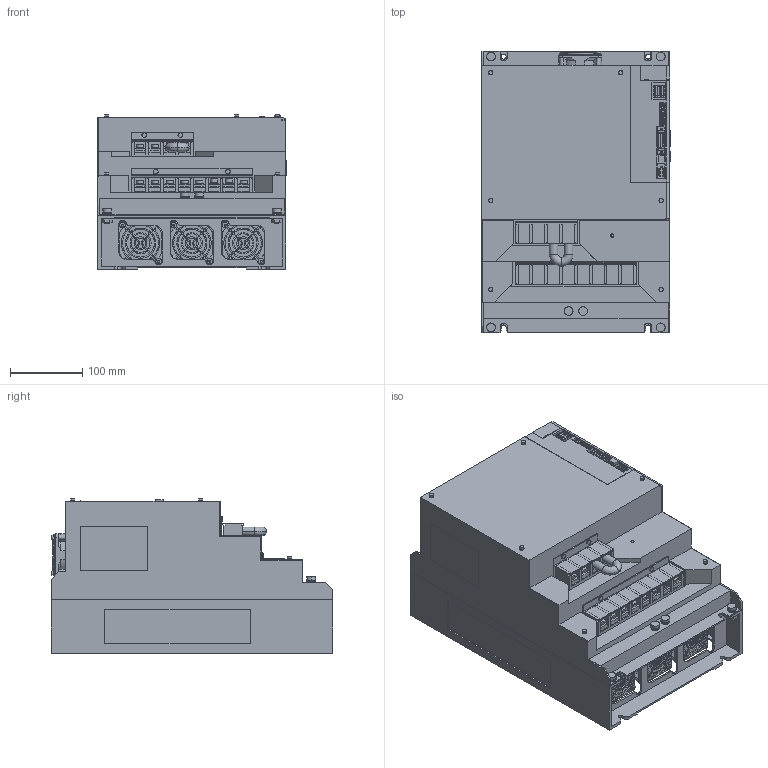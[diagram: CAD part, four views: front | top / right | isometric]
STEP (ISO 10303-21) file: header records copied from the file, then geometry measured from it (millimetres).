
FILE_DESCRIPTION (( 'STEP AP203' ), '1' );
FILE_NAME ('sgd7s_780a10a.STEP', '2015-09-18T08:34:57', ( '匠エンジニアリング山之内' ), ( 'TAKUMI-Engniaring' ), 'SwSTEP 2.0', 'SolidWorks 2006303', '' );
FILE_SCHEMA (( 'CONFIG_CONTROL_DESIGN' ));
Products named in the file (8): sgd7s_780a10a_base; sgd7s_780a10a_cover4; sgd7s_780a10a_terminal; sgd7s_780a10a; sgd7s_780a10a_cover; sgd7s_780a10a_cover2; sgd7s_780a10a_connector; sgd7s_780a10a_cover3
Assembly tree (8 placements, depth 2):
  sgd7s_780a10a
    sgd7s_780a10a_cover
    sgd7s_780a10a_cover2  x2
    sgd7s_780a10a_base
    sgd7s_780a10a_cover4
    sgd7s_780a10a_cover3
    sgd7s_780a10a_terminal
    sgd7s_780a10a_connector
Bounding box: 260.6 x 390 x 213.6 mm (x, y, z)
Volume: 12215875.5 mm3; surface area: 1161194.4 mm2
Topology: 8 solids, 8 shells, 2765 faces, 7851 edges, 5181 vertices
Faces by surface type: plane 2095, cylinder 597, cone 68, torus 4, sphere 1
Entity records: 90041 total; most frequent: CARTESIAN_POINT 16153, ORIENTED_EDGE 15594, DIRECTION 14749, EDGE_CURVE 7797, LINE 6099, VECTOR 6099, VERTEX_POINT 5145, AXIS2_PLACEMENT_3D 4325
